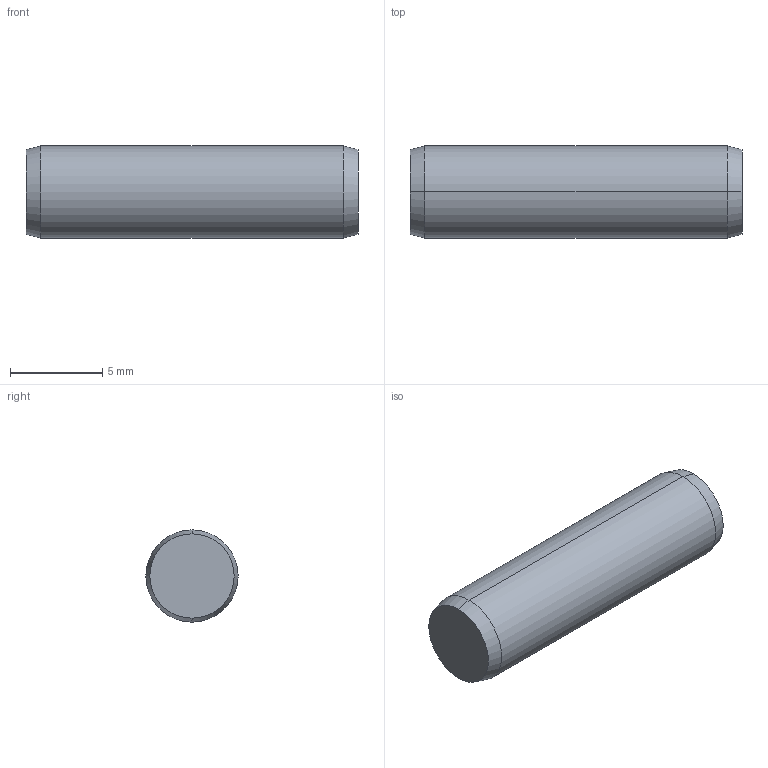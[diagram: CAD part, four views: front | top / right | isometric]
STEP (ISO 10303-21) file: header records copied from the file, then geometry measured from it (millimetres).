
FILE_DESCRIPTION (( 'STEP AP203' ), '1' );
FILE_NAME ('P1206.050-018.step', '2017-06-14T08:15:28', ( 'User' ), ( '' ), 'SwSTEP 2.0', 'SolidWorks 2009', '' );
FILE_SCHEMA (( 'CONFIG_CONTROL_DESIGN' ));
Length unit declared in the file: millimetre
Products named in the file (1): P1206.050-018
Bounding box: 18 x 5 x 5 mm (x, y, z)
Volume: 350.8 mm3; surface area: 315.3 mm2
Topology: 1 solids, 1 shells, 8 faces, 14 edges, 8 vertices
Faces by surface type: cone 4, cylinder 2, plane 2
Entity records: 271 total; most frequent: DIRECTION 40, CARTESIAN_POINT 31, ORIENTED_EDGE 28, AXIS2_PLACEMENT_3D 17, EDGE_CURVE 14, EDGE_LOOP 8, ADVANCED_FACE 8, VERTEX_POINT 8
